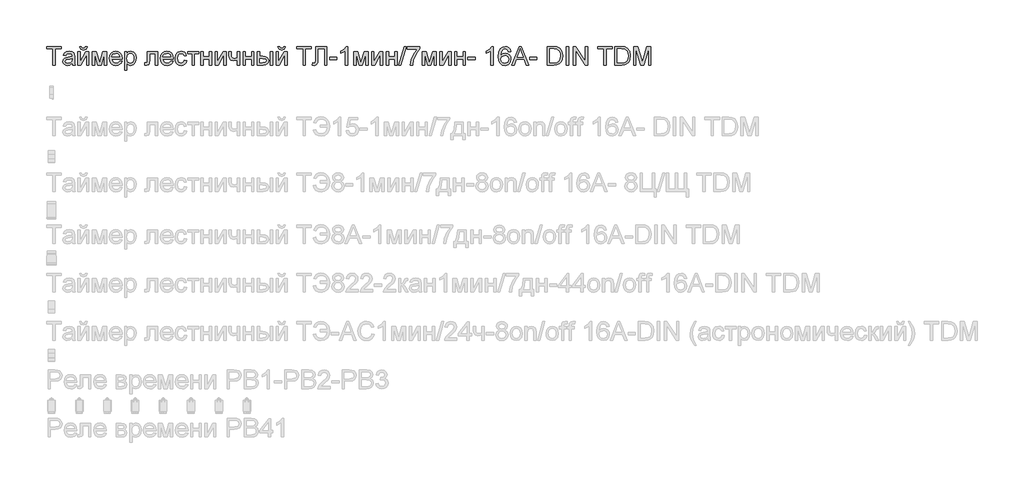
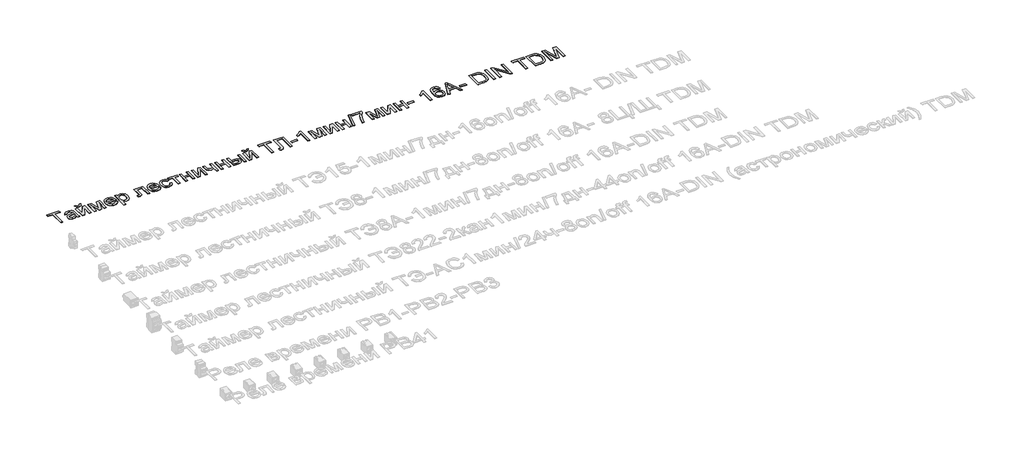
# One storey, part 33 of 34: 1 proxy.
"""IFC4 building model written with IfcOpenShell, lengths in millimetres."""

from ifc_helpers import new_model, si_unit, frame, origin, place, context, project, spatial, polyline, outline, extrude, element, save

model = new_model("IFC4")

# Units and contexts
model_context = context("Model", 3, world=origin())
ifc_project = project(units=[si_unit("LENGTHUNIT", "METRE", prefix="MILLI")], contexts=[model_context])

# Site, building, storey
site = spatial("IfcSite", under=ifc_project)
building = spatial("IfcBuilding", under=site)
storey = spatial("IfcBuildingStorey", under=building, Name="Этаж 01", Elevation=0.0)

# Proxy
placement = place(None, origin())
element("IfcBuildingElementProxy", 1, Name="Надпись на модели 1", ObjectType="Надпись на модели 1", at=placement, inside=storey, context=model_context, shape_type="SweptSolid", body=[
    extrude(outline(polyline([(-19013.8985135, 18536.235284), (-19013.8985135, 18624.1345554), (-19046.8607403, 18624.1345554), (-19046.8607403, 18636.6915941), (-18968.379248, 18636.6915941), (-18968.379248, 18624.1345554), (-19001.3414748, 18624.1345554), (-19001.3414748, 18536.235284), (-19013.8985135, 18536.235284)])), frame((0.0, 0.0, 40.0), z_axis=(0.0, 0.0, 1.0), x_axis=(1.0, 0.0, 0.0)), (0.0, 0.0, 1.0), 2.0),
    extrude(outline(polyline([(-18908.7333139, 18545.6530631), (-18920.9102079, 18537.1427262), (-18934.3624262, 18534.6656541), (-18944.8562601, 18536.1555762), (-18952.5971104, 18540.6253425), (-18957.3703793, 18547.4127653), (-18958.9614689, 18555.8556571), (-18956.5579732, 18565.7884709), (-18950.2426656, 18572.998958), (-18941.450286, 18577.1192364), (-18930.5855044, 18579.0076973), (-18908.8068903, 18583.3241794), (-18908.7333139, 18586.1200825), (-18912.1914046, 18595.3907088), (-18926.0728186, 18599.0204778), (-18938.7770101, 18596.6047194), (-18944.8348003, 18588.0330689), (-18957.3918391, 18589.6026988), (-18951.9594483, 18601.8654319), (-18941.0210903, 18609.0513936), (-18924.4541378, 18611.5775166), (-18909.2360859, 18609.3456992), (-18900.63991, 18603.7416301), (-18896.7894117, 18595.2190306), (-18896.1762751, 18584.2316216), (-18896.1762751, 18568.6088996), (-18895.538613, 18546.7934973), (-18893.0370154, 18536.235284), (-18905.5940542, 18536.235284), (-18908.7333139, 18545.6530631)]), holes=[polyline([(-18908.7333139, 18570.7671406), (-18928.9913491, 18566.9166424), (-18939.794817, 18564.8810287), (-18944.6876475, 18561.5700907), (-18946.4044302, 18556.7385739), (-18942.6642965, 18549.9450197), (-18931.6891504, 18547.2226929), (-18918.9849588, 18550.2270625), (-18910.793453, 18557.4988633), (-18908.8068903, 18567.210948), (-18908.7333139, 18570.7671406)])]), frame((0.0, 0.0, 40.0), z_axis=(0.0, 0.0, 1.0), x_axis=(1.0, 0.0, 0.0)), (0.0, 0.0, 1.0), 2.0),
    extrude(outline(polyline([(-18878.9103468, 18610.0078868), (-18866.353308, 18610.0078868), (-18866.353308, 18553.746467), (-18835.5002713, 18610.0078868), (-18819.2644126, 18610.0078868), (-18819.2644126, 18536.235284), (-18831.8214514, 18536.235284), (-18831.8214514, 18592.1533473), (-18862.4782843, 18536.235284), (-18878.9103468, 18536.235284), (-18878.9103468, 18610.0078868)])), frame((0.0, 0.0, 40.0), z_axis=(0.0, 0.0, 1.0), x_axis=(1.0, 0.0, 0.0)), (0.0, 0.0, 1.0), 2.0),
    extrude(outline(polyline([(-18838.0999708, 18636.6915941), (-18828.6821917, 18636.6915941), (-18834.7767701, 18622.7243411), (-18848.3025648, 18617.856036), (-18862.9442682, 18622.6875529), (-18869.4925677, 18636.6915941), (-18860.0747886, 18636.6915941), (-18856.5431215, 18629.6159971), (-18849.4307362, 18627.2738151), (-18841.6316379, 18629.5424207), (-18838.0999708, 18636.6915941)])), frame((0.0, 0.0, 40.0), z_axis=(0.0, 0.0, 1.0), x_axis=(1.0, 0.0, 0.0)), (0.0, 0.0, 1.0), 2.0),
    extrude(outline(polyline([(-18800.4288545, 18610.0078868), (-18778.8219186, 18610.0078868), (-18762.169127, 18550.9505638), (-18744.2164856, 18610.0078868), (-18723.516992, 18610.0078868), (-18723.516992, 18536.235284), (-18736.0740308, 18536.235284), (-18736.0740308, 18595.6359635), (-18754.124774, 18536.235284), (-18770.6058874, 18536.235284), (-18787.8718157, 18598.4809176), (-18787.8718157, 18536.235284), (-18800.4288545, 18536.235284), (-18800.4288545, 18610.0078868)])), frame((0.0, 0.0, 40.0), z_axis=(0.0, 0.0, 1.0), x_axis=(1.0, 0.0, 0.0)), (0.0, 0.0, 1.0), 2.0),
    extrude(outline(polyline([(-18653.0308017, 18558.2101018), (-18640.7190176, 18556.640472), (-18645.1550614, 18547.3637143), (-18652.2337241, 18540.4291387), (-18661.7955903, 18536.1065253), (-18673.6812444, 18534.6656541), (-18688.4149183, 18537.1519233), (-18699.7518151, 18544.6107308), (-18706.9806963, 18556.5576985), (-18709.3903234, 18572.5084487), (-18706.9561709, 18588.9956935), (-18699.6537133, 18601.3258717), (-18688.4701006, 18609.0146054), (-18674.3924829, 18611.5775166), (-18660.753258, 18609.0207367), (-18649.8547538, 18601.3503971), (-18642.7086461, 18589.0447444), (-18640.3266102, 18572.5820251), (-18640.4001866, 18569.1975108), (-18696.8332846, 18569.1975108), (-18694.6597152, 18559.7981258), (-18689.6105348, 18552.8880756), (-18682.3234056, 18548.6390386), (-18673.4359897, 18547.2226929), (-18661.1242056, 18549.8469178), (-18653.0308017, 18558.2101018)]), holes=[polyline([(-18696.8332846, 18581.7545495), (-18652.8836489, 18581.7545495), (-18657.9113695, 18593.1343659), (-18665.2322212, 18597.5489499), (-18674.4415339, 18599.0204778), (-18689.9048404, 18594.323851), (-18694.7700798, 18588.8332123), (-18696.8332846, 18581.7545495)])]), frame((0.0, 0.0, 40.0), z_axis=(0.0, 0.0, 1.0), x_axis=(1.0, 0.0, 0.0)), (0.0, 0.0, 1.0), 2.0),
    extrude(outline(polyline([(-18627.7695714, 18507.9819468), (-18627.7695714, 18610.0078868), (-18615.2125326, 18610.0078868), (-18615.2125326, 18597.6961027), (-18606.5305175, 18608.1071631), (-18594.8073446, 18611.5775166), (-18578.890317, 18606.7214743), (-18568.4915192, 18593.036264), (-18564.9843776, 18573.6856711), (-18568.9452404, 18553.3417968), (-18580.4476841, 18539.4849083), (-18596.3279235, 18534.6656541), (-18607.2540188, 18537.890753), (-18615.2125326, 18546.0454705), (-18615.2125326, 18507.9819468), (-18627.7695714, 18507.9819468)]), holes=[polyline([(-18615.2125326, 18572.5329742), (-18613.8544349, 18561.2757851), (-18609.7801418, 18553.4031104), (-18603.7683369, 18548.7677973), (-18596.5977037, 18547.2226929), (-18589.3105745, 18548.8229796), (-18583.1454854, 18553.6238396), (-18578.9424336, 18561.7846886), (-18577.5414163, 18573.4649419), (-18578.9087111, 18584.6608173), (-18583.0105953, 18592.6438566), (-18589.0132032, 18597.4263225), (-18596.0826689, 18599.0204778), (-18603.1797257, 18597.325155), (-18609.4122598, 18592.2391864), (-18613.7624644, 18583.9219876), (-18615.2125326, 18572.5329742)])]), frame((0.0, 0.0, 40.0), z_axis=(0.0, 0.0, 1.0), x_axis=(1.0, 0.0, 0.0)), (0.0, 0.0, 1.0), 2.0),
    extrude(outline(polyline([(-18505.3384434, 18610.0078868), (-18448.8317689, 18610.0078868), (-18448.8317689, 18536.3088604), (-18461.3888077, 18536.3088604), (-18461.3888077, 18597.450848), (-18492.7814046, 18597.450848), (-18492.7814046, 18562.2568038), (-18493.6275332, 18546.0209451), (-18498.2751091, 18539.1660772), (-18509.262518, 18536.235284), (-18519.465112, 18536.8729461), (-18519.465112, 18548.7923228), (-18513.8487802, 18548.7923228), (-18508.1711348, 18549.564875), (-18505.9025291, 18552.0174216), (-18505.3384434, 18562.9680423), (-18505.3384434, 18610.0078868)])), frame((0.0, 0.0, 40.0), z_axis=(0.0, 0.0, 1.0), x_axis=(1.0, 0.0, 0.0)), (0.0, 0.0, 1.0), 2.0),
    extrude(outline(polyline([(-18378.3455787, 18558.2101018), (-18366.0337946, 18556.640472), (-18370.4698383, 18547.3637143), (-18377.548501, 18540.4291387), (-18387.1103672, 18536.1065253), (-18398.9960213, 18534.6656541), (-18413.7296952, 18537.1519233), (-18425.0665921, 18544.6107308), (-18432.2954733, 18556.5576985), (-18434.7051003, 18572.5084487), (-18432.2709478, 18588.9956935), (-18424.9684902, 18601.3258717), (-18413.7848775, 18609.0146054), (-18399.7072599, 18611.5775166), (-18386.0680349, 18609.0207367), (-18375.1695308, 18601.3503971), (-18368.023423, 18589.0447444), (-18365.6413871, 18572.5820251), (-18365.7149635, 18569.1975108), (-18422.1480616, 18569.1975108), (-18419.9744921, 18559.7981258), (-18414.9253117, 18552.8880756), (-18407.6381825, 18548.6390386), (-18398.7507667, 18547.2226929), (-18386.4389826, 18549.8469178), (-18378.3455787, 18558.2101018)]), holes=[polyline([(-18422.1480616, 18581.7545495), (-18378.1984259, 18581.7545495), (-18383.2261465, 18593.1343659), (-18390.5469982, 18597.5489499), (-18399.7563108, 18599.0204778), (-18415.2196173, 18594.323851), (-18420.0848567, 18588.8332123), (-18422.1480616, 18581.7545495)])]), frame((0.0, 0.0, 40.0), z_axis=(0.0, 0.0, 1.0), x_axis=(1.0, 0.0, 0.0)), (0.0, 0.0, 1.0), 2.0),
    extrude(outline(polyline([(-18305.995453, 18562.9189914), (-18293.4384142, 18561.3493615), (-18296.9394245, 18550.1810773), (-18303.5183809, 18541.7412512), (-18312.5560152, 18536.4345534), (-18323.4330595, 18534.6656541), (-18336.7902416, 18537.1335292), (-18347.2350246, 18544.5371544), (-18353.9764622, 18556.5515672), (-18356.223608, 18572.8518052), (-18352.3853725, 18593.7107144), (-18340.6867251, 18607.1138817), (-18323.6047378, 18611.5775166), (-18312.9944079, 18610.044675), (-18304.5116622, 18605.44615), (-18298.4262809, 18598.0271964), (-18295.008044, 18588.0330689), (-18307.5650828, 18586.4634391), (-18313.3898811, 18595.8689554), (-18323.5066359, 18599.0204778), (-18331.6214996, 18597.4692421), (-18338.0625002, 18592.8155349), (-18342.265552, 18584.8079701), (-18343.6665693, 18573.1951618), (-18342.2962088, 18561.4260036), (-18338.1851275, 18553.3908477), (-18331.8606229, 18548.7647316), (-18323.8499925, 18547.2226929), (-18312.0164549, 18551.0731911), (-18305.995453, 18562.9189914)])), frame((0.0, 0.0, 40.0), z_axis=(0.0, 0.0, 1.0), x_axis=(1.0, 0.0, 0.0)), (0.0, 0.0, 1.0), 2.0),
    extrude(outline(polyline([(-18288.7295246, 18610.0078868), (-18229.0835905, 18610.0078868), (-18229.0835905, 18597.450848), (-18252.6280382, 18597.450848), (-18252.6280382, 18536.235284), (-18265.185077, 18536.235284), (-18265.185077, 18597.450848), (-18288.7295246, 18597.450848), (-18288.7295246, 18610.0078868)])), frame((0.0, 0.0, 40.0), z_axis=(0.0, 0.0, 1.0), x_axis=(1.0, 0.0, 0.0)), (0.0, 0.0, 1.0), 2.0),
    extrude(outline(polyline([(-18218.0961816, 18610.0078868), (-18205.5391428, 18610.0078868), (-18205.5391428, 18581.7545495), (-18172.576916, 18581.7545495), (-18172.576916, 18610.0078868), (-18160.0198773, 18610.0078868), (-18160.0198773, 18536.235284), (-18172.576916, 18536.235284), (-18172.576916, 18569.1975108), (-18205.5391428, 18569.1975108), (-18205.5391428, 18536.235284), (-18218.0961816, 18536.235284), (-18218.0961816, 18610.0078868)])), frame((0.0, 0.0, 40.0), z_axis=(0.0, 0.0, 1.0), x_axis=(1.0, 0.0, 0.0)), (0.0, 0.0, 1.0), 2.0),
    extrude(outline(polyline([(-18141.1843191, 18610.0078868), (-18128.6272803, 18610.0078868), (-18128.6272803, 18553.746467), (-18097.7742437, 18610.0078868), (-18081.538385, 18610.0078868), (-18081.538385, 18536.235284), (-18094.0954237, 18536.235284), (-18094.0954237, 18592.1533473), (-18124.7522567, 18536.235284), (-18141.1843191, 18536.235284), (-18141.1843191, 18610.0078868)])), frame((0.0, 0.0, 40.0), z_axis=(0.0, 0.0, 1.0), x_axis=(1.0, 0.0, 0.0)), (0.0, 0.0, 1.0), 2.0),
    extrude(outline(polyline([(-18067.4117163, 18610.0078868), (-18054.8546776, 18610.0078868), (-18054.8546776, 18595.8566927), (-18053.8368707, 18582.5884154), (-18048.9440402, 18575.4024537), (-18039.2319555, 18572.3367705), (-18021.8924508, 18576.1382177), (-18021.8924508, 18610.0078868), (-18009.335412, 18610.0078868), (-18009.335412, 18536.235284), (-18021.8924508, 18536.235284), (-18021.8924508, 18564.0962138), (-18042.5919444, 18559.7797317), (-18056.8289776, 18564.2801548), (-18065.2044244, 18575.3043519), (-18067.4117163, 18589.6517497), (-18067.4117163, 18610.0078868)])), frame((0.0, 0.0, 40.0), z_axis=(0.0, 0.0, 1.0), x_axis=(1.0, 0.0, 0.0)), (0.0, 0.0, 1.0), 2.0),
    extrude(outline(polyline([(-17990.4998539, 18610.0078868), (-17977.9428151, 18610.0078868), (-17977.9428151, 18581.7545495), (-17944.9805884, 18581.7545495), (-17944.9805884, 18610.0078868), (-17932.4235496, 18610.0078868), (-17932.4235496, 18536.235284), (-17944.9805884, 18536.235284), (-17944.9805884, 18569.1975108), (-17977.9428151, 18569.1975108), (-17977.9428151, 18536.235284), (-17990.4998539, 18536.235284), (-17990.4998539, 18610.0078868)])), frame((0.0, 0.0, 40.0), z_axis=(0.0, 0.0, 1.0), x_axis=(1.0, 0.0, 0.0)), (0.0, 0.0, 1.0), 2.0),
    extrude(outline(polyline([(-17844.5242782, 18610.0078868), (-17831.9672394, 18610.0078868), (-17831.9672394, 18536.235284), (-17844.5242782, 18536.235284), (-17844.5242782, 18610.0078868)])), frame((0.0, 0.0, 40.0), z_axis=(0.0, 0.0, 1.0), x_axis=(1.0, 0.0, 0.0)), (0.0, 0.0, 1.0), 2.0),
    extrude(outline(polyline([(-17913.5879914, 18610.0078868), (-17901.0309527, 18610.0078868), (-17901.0309527, 18583.3241794), (-17885.5063325, 18583.3241794), (-17872.0878367, 18581.7514838), (-17862.1458258, 18577.0333973), (-17855.9929994, 18569.5500643), (-17853.9420573, 18559.6816298), (-17855.6619056, 18550.6961121), (-17860.8214506, 18543.1146773), (-17869.7579174, 18537.9551323), (-17882.8085312, 18536.235284), (-17913.5879914, 18536.235284), (-17913.5879914, 18610.0078868)]), holes=[polyline([(-17901.0309527, 18548.7923228), (-17888.1305574, 18548.7923228), (-17871.4777657, 18551.4288104), (-17866.499096, 18559.6571044), (-17870.1901787, 18567.3826263), (-17886.4873511, 18570.7671406), (-17901.0309527, 18570.7671406), (-17901.0309527, 18548.7923228)])]), frame((0.0, 0.0, 40.0), z_axis=(0.0, 0.0, 1.0), x_axis=(1.0, 0.0, 0.0)), (0.0, 0.0, 1.0), 2.0),
    extrude(outline(polyline([(-17813.1316813, 18610.0078868), (-17800.5746425, 18610.0078868), (-17800.5746425, 18553.746467), (-17769.7216059, 18610.0078868), (-17753.4857471, 18610.0078868), (-17753.4857471, 18536.235284), (-17766.0427859, 18536.235284), (-17766.0427859, 18592.1533473), (-17796.6996188, 18536.235284), (-17813.1316813, 18536.235284), (-17813.1316813, 18610.0078868)])), frame((0.0, 0.0, 40.0), z_axis=(0.0, 0.0, 1.0), x_axis=(1.0, 0.0, 0.0)), (0.0, 0.0, 1.0), 2.0),
    extrude(outline(polyline([(-17772.3213053, 18636.6915941), (-17762.9035262, 18636.6915941), (-17768.9981046, 18622.7243411), (-17782.5238993, 18617.856036), (-17797.1656027, 18622.6875529), (-17803.7139022, 18636.6915941), (-17794.2961231, 18636.6915941), (-17790.764456, 18629.6159971), (-17783.6520707, 18627.2738151), (-17775.8529724, 18629.5424207), (-17772.3213053, 18636.6915941)])), frame((0.0, 0.0, 40.0), z_axis=(0.0, 0.0, 1.0), x_axis=(1.0, 0.0, 0.0)), (0.0, 0.0, 1.0), 2.0),
    extrude(outline(polyline([(-17668.7257354, 18536.235284), (-17668.7257354, 18624.1345554), (-17701.6879622, 18624.1345554), (-17701.6879622, 18636.6915941), (-17623.2064699, 18636.6915941), (-17623.2064699, 18624.1345554), (-17656.1686967, 18624.1345554), (-17656.1686967, 18536.235284), (-17668.7257354, 18536.235284)])), frame((0.0, 0.0, 40.0), z_axis=(0.0, 0.0, 1.0), x_axis=(1.0, 0.0, 0.0)), (0.0, 0.0, 1.0), 2.0),
    extrude(outline(polyline([(-17601.2316521, 18636.6915941), (-17540.0160881, 18636.6915941), (-17540.0160881, 18536.235284), (-17552.5731268, 18536.235284), (-17552.5731268, 18624.1345554), (-17588.6746133, 18624.1345554), (-17588.6746133, 18572.8763307), (-17590.1338785, 18550.0063333), (-17596.2529824, 18538.7000934), (-17608.0742572, 18534.6656541), (-17618.4975804, 18536.235284), (-17616.9279505, 18548.7923228), (-17610.9192113, 18547.2226929), (-17603.6474105, 18550.5949445), (-17601.2316521, 18566.475184), (-17601.2316521, 18636.6915941)])), frame((0.0, 0.0, 40.0), z_axis=(0.0, 0.0, 1.0), x_axis=(1.0, 0.0, 0.0)), (0.0, 0.0, 1.0), 2.0),
    extrude(outline(polyline([(-17525.8894194, 18566.0582511), (-17525.8894194, 18578.6152898), (-17486.6486733, 18578.6152898), (-17486.6486733, 18566.0582511), (-17525.8894194, 18566.0582511)])), frame((0.0, 0.0, 40.0), z_axis=(0.0, 0.0, 1.0), x_axis=(1.0, 0.0, 0.0)), (0.0, 0.0, 1.0), 2.0),
    extrude(outline(polyline([(-17428.572369, 18536.235284), (-17441.1294078, 18536.235284), (-17441.1294078, 18614.5205726), (-17453.0242589, 18606.0470239), (-17466.2434853, 18599.7071909), (-17466.2434853, 18611.5775166), (-17447.8371228, 18623.325215), (-17436.6657729, 18636.6915941), (-17428.572369, 18636.6915941), (-17428.572369, 18536.235284)])), frame((0.0, 0.0, 40.0), z_axis=(0.0, 0.0, 1.0), x_axis=(1.0, 0.0, 0.0)), (0.0, 0.0, 1.0), 2.0),
    extrude(outline(polyline([(-17395.6101422, 18610.0078868), (-17374.0032064, 18610.0078868), (-17357.3504147, 18550.9505638), (-17339.3977734, 18610.0078868), (-17318.6982798, 18610.0078868), (-17318.6982798, 18536.235284), (-17331.2553185, 18536.235284), (-17331.2553185, 18595.6359635), (-17349.3060618, 18536.235284), (-17365.7871751, 18536.235284), (-17383.0531035, 18598.4809176), (-17383.0531035, 18536.235284), (-17395.6101422, 18536.235284), (-17395.6101422, 18610.0078868)])), frame((0.0, 0.0, 40.0), z_axis=(0.0, 0.0, 1.0), x_axis=(1.0, 0.0, 0.0)), (0.0, 0.0, 1.0), 2.0),
    extrude(outline(polyline([(-17299.8627216, 18610.0078868), (-17287.3056828, 18610.0078868), (-17287.3056828, 18553.746467), (-17256.4526462, 18610.0078868), (-17240.2167875, 18610.0078868), (-17240.2167875, 18536.235284), (-17252.7738262, 18536.235284), (-17252.7738262, 18592.1533473), (-17283.4306592, 18536.235284), (-17299.8627216, 18536.235284), (-17299.8627216, 18610.0078868)])), frame((0.0, 0.0, 40.0), z_axis=(0.0, 0.0, 1.0), x_axis=(1.0, 0.0, 0.0)), (0.0, 0.0, 1.0), 2.0),
    extrude(outline(polyline([(-17221.3812293, 18610.0078868), (-17208.8241905, 18610.0078868), (-17208.8241905, 18581.7545495), (-17175.8619638, 18581.7545495), (-17175.8619638, 18610.0078868), (-17163.304925, 18610.0078868), (-17163.304925, 18536.235284), (-17175.8619638, 18536.235284), (-17175.8619638, 18569.1975108), (-17208.8241905, 18569.1975108), (-17208.8241905, 18536.235284), (-17221.3812293, 18536.235284), (-17221.3812293, 18610.0078868)])), frame((0.0, 0.0, 40.0), z_axis=(0.0, 0.0, 1.0), x_axis=(1.0, 0.0, 0.0)), (0.0, 0.0, 1.0), 2.0),
    extrude(outline(polyline([(-17153.8871459, 18536.235284), (-17125.6338087, 18636.6915941), (-17114.3030432, 18636.6915941), (-17142.5563805, 18536.235284), (-17153.8871459, 18536.235284)])), frame((0.0, 0.0, 40.0), z_axis=(0.0, 0.0, 1.0), x_axis=(1.0, 0.0, 0.0)), (0.0, 0.0, 1.0), 2.0),
    extrude(outline(polyline([(-17108.3678804, 18622.5649255), (-17108.3678804, 18635.1219643), (-17042.4434269, 18635.1219643), (-17042.4434269, 18624.9684212), (-17061.1440949, 18597.9536201), (-17075.4547046, 18563.532128), (-17080.1145432, 18536.235284), (-17092.6715819, 18536.235284), (-17087.6806495, 18564.5621976), (-17073.9831766, 18596.5801939), (-17055.0004656, 18622.5649255), (-17108.3678804, 18622.5649255)])), frame((0.0, 0.0, 40.0), z_axis=(0.0, 0.0, 1.0), x_axis=(1.0, 0.0, 0.0)), (0.0, 0.0, 1.0), 2.0),
    extrude(outline(polyline([(-17028.3167582, 18610.0078868), (-17006.7098224, 18610.0078868), (-16990.0570307, 18550.9505638), (-16972.1043894, 18610.0078868), (-16951.4048958, 18610.0078868), (-16951.4048958, 18536.235284), (-16963.9619345, 18536.235284), (-16963.9619345, 18595.6359635), (-16982.0126778, 18536.235284), (-16998.4937912, 18536.235284), (-17015.7597195, 18598.4809176), (-17015.7597195, 18536.235284), (-17028.3167582, 18536.235284), (-17028.3167582, 18610.0078868)])), frame((0.0, 0.0, 40.0), z_axis=(0.0, 0.0, 1.0), x_axis=(1.0, 0.0, 0.0)), (0.0, 0.0, 1.0), 2.0),
    extrude(outline(polyline([(-16932.5693376, 18610.0078868), (-16920.0122989, 18610.0078868), (-16920.0122989, 18553.746467), (-16889.1592622, 18610.0078868), (-16872.9234035, 18610.0078868), (-16872.9234035, 18536.235284), (-16885.4804422, 18536.235284), (-16885.4804422, 18592.1533473), (-16916.1372752, 18536.235284), (-16932.5693376, 18536.235284), (-16932.5693376, 18610.0078868)])), frame((0.0, 0.0, 40.0), z_axis=(0.0, 0.0, 1.0), x_axis=(1.0, 0.0, 0.0)), (0.0, 0.0, 1.0), 2.0),
    extrude(outline(polyline([(-16854.0878453, 18610.0078868), (-16841.5308066, 18610.0078868), (-16841.5308066, 18581.7545495), (-16808.5685798, 18581.7545495), (-16808.5685798, 18610.0078868), (-16796.011541, 18610.0078868), (-16796.011541, 18536.235284), (-16808.5685798, 18536.235284), (-16808.5685798, 18569.1975108), (-16841.5308066, 18569.1975108), (-16841.5308066, 18536.235284), (-16854.0878453, 18536.235284), (-16854.0878453, 18610.0078868)])), frame((0.0, 0.0, 40.0), z_axis=(0.0, 0.0, 1.0), x_axis=(1.0, 0.0, 0.0)), (0.0, 0.0, 1.0), 2.0),
    extrude(outline(polyline([(-16783.4545022, 18566.0582511), (-16783.4545022, 18578.6152898), (-16744.2137561, 18578.6152898), (-16744.2137561, 18566.0582511), (-16783.4545022, 18566.0582511)])), frame((0.0, 0.0, 40.0), z_axis=(0.0, 0.0, 1.0), x_axis=(1.0, 0.0, 0.0)), (0.0, 0.0, 1.0), 2.0),
    extrude(outline(polyline([(-16646.8967056, 18536.235284), (-16659.4537444, 18536.235284), (-16659.4537444, 18614.5205726), (-16671.3485956, 18606.0470239), (-16684.5678219, 18599.7071909), (-16684.5678219, 18611.5775166), (-16666.1614595, 18623.325215), (-16654.9901095, 18636.6915941), (-16646.8967056, 18636.6915941), (-16646.8967056, 18536.235284)])), frame((0.0, 0.0, 40.0), z_axis=(0.0, 0.0, 1.0), x_axis=(1.0, 0.0, 0.0)), (0.0, 0.0, 1.0), 2.0),
    extrude(outline(polyline([(-16552.7189149, 18610.0078868), (-16565.2759536, 18608.4382569), (-16570.0338941, 18618.910631), (-16582.6154583, 18624.1345554), (-16593.9462238, 18621.0933975), (-16602.5178743, 18609.676793), (-16606.0863296, 18587.2973049), (-16595.0130816, 18597.3159579), (-16581.2910832, 18600.5901077), (-16569.6905376, 18598.3521589), (-16559.9539274, 18591.6383125), (-16553.3504456, 18581.3805362), (-16551.149285, 18568.5107977), (-16555.2940888, 18551.1835557), (-16566.6984307, 18538.9208226), (-16583.1550186, 18534.6656541), (-16597.4012489, 18537.4860828), (-16608.7473427, 18545.9473687), (-16616.169362, 18560.8833777), (-16618.6433684, 18583.1279756), (-16615.8965162, 18608.13782), (-16607.6559595, 18625.2382014), (-16596.4049018, 18633.8282459), (-16581.8306434, 18636.6915941), (-16570.8125777, 18634.9196292), (-16561.9895412, 18629.6037344), (-16555.8091236, 18621.1608426), (-16552.7189149, 18610.0078868)]), holes=[polyline([(-16606.0863296, 18568.7070014), (-16603.1800619, 18557.8299571), (-16595.45454, 18549.9327569), (-16584.1360373, 18547.2226929), (-16575.8494953, 18548.6267759), (-16569.3349183, 18552.8390247), (-16565.1134724, 18559.4609006), (-16563.7063238, 18568.0938648), (-16565.0950783, 18576.3804067), (-16569.2613419, 18582.69878), (-16575.8862835, 18586.6994967), (-16584.6510721, 18588.0330689), (-16599.8445985, 18582.69878), (-16604.5258968, 18576.5336909), (-16606.0863296, 18568.7070014)])]), frame((0.0, 0.0, 40.0), z_axis=(0.0, 0.0, 1.0), x_axis=(1.0, 0.0, 0.0)), (0.0, 0.0, 1.0), 2.0),
    extrude(outline(polyline([(-16547.151634, 18536.235284), (-16507.0524965, 18636.6915941), (-16496.3593932, 18636.6915941), (-16456.2602557, 18536.235284), (-16469.528533, 18536.235284), (-16481.0309767, 18567.6278809), (-16522.4054385, 18567.6278809), (-16533.8833567, 18536.235284), (-16547.151634, 18536.235284)]), holes=[polyline([(-16517.7946508, 18580.1849197), (-16485.617239, 18580.1849197), (-16494.667136, 18604.8820643), (-16501.7059449, 18624.1345554), (-16507.9599388, 18607.0403053), (-16517.7946508, 18580.1849197)])]), frame((0.0, 0.0, 40.0), z_axis=(0.0, 0.0, 1.0), x_axis=(1.0, 0.0, 0.0)), (0.0, 0.0, 1.0), 2.0),
    extrude(outline(polyline([(-16450.6929749, 18566.0582511), (-16450.6929749, 18578.6152898), (-16411.4522287, 18578.6152898), (-16411.4522287, 18566.0582511), (-16450.6929749, 18566.0582511)])), frame((0.0, 0.0, 40.0), z_axis=(0.0, 0.0, 1.0), x_axis=(1.0, 0.0, 0.0)), (0.0, 0.0, 1.0), 2.0),
    extrude(outline(polyline([(-16356.5151841, 18536.235284), (-16356.5151841, 18636.6915941), (-16321.8607002, 18636.6915941), (-16303.9325843, 18635.2445916), (-16289.1682535, 18628.05863), (-16277.2734024, 18610.8908035), (-16273.3248023, 18587.0029993), (-16275.9980781, 18566.7327014), (-16282.8652087, 18552.1032607), (-16292.0377331, 18542.99205), (-16304.0429489, 18537.9520666), (-16320.1929685, 18536.235284), (-16356.5151841, 18536.235284)]), holes=[polyline([(-16343.9581453, 18548.7923228), (-16321.7380728, 18548.7923228), (-16305.5757905, 18550.6072073), (-16296.2561133, 18555.7330297), (-16288.6164305, 18568.2042294), (-16285.881841, 18587.1992031), (-16287.2215446, 18600.8844133), (-16291.2406554, 18610.9889054), (-16304.2759408, 18622.1234671), (-16322.0814294, 18624.1345554), (-16343.9581453, 18624.1345554), (-16343.9581453, 18548.7923228)])]), frame((0.0, 0.0, 40.0), z_axis=(0.0, 0.0, 1.0), x_axis=(1.0, 0.0, 0.0)), (0.0, 0.0, 1.0), 2.0),
    extrude(outline(polyline([(-16254.4892441, 18536.235284), (-16254.4892441, 18636.6915941), (-16241.9322053, 18636.6915941), (-16241.9322053, 18536.235284), (-16254.4892441, 18536.235284)])), frame((0.0, 0.0, 40.0), z_axis=(0.0, 0.0, 1.0), x_axis=(1.0, 0.0, 0.0)), (0.0, 0.0, 1.0), 2.0),
    extrude(outline(polyline([(-16216.8181278, 18536.235284), (-16216.8181278, 18636.6915941), (-16203.3781723, 18636.6915941), (-16150.8936743, 18557.1064559), (-16150.8936743, 18636.6915941), (-16138.3366355, 18636.6915941), (-16138.3366355, 18536.235284), (-16151.7765911, 18536.235284), (-16204.261089, 18615.8449477), (-16204.261089, 18536.235284), (-16216.8181278, 18536.235284)])), frame((0.0, 0.0, 40.0), z_axis=(0.0, 0.0, 1.0), x_axis=(1.0, 0.0, 0.0)), (0.0, 0.0, 1.0), 2.0),
    extrude(outline(polyline([(-16052.006994, 18536.235284), (-16052.006994, 18624.1345554), (-16084.9692207, 18624.1345554), (-16084.9692207, 18636.6915941), (-16006.4877284, 18636.6915941), (-16006.4877284, 18624.1345554), (-16039.4499552, 18624.1345554), (-16039.4499552, 18536.235284), (-16052.006994, 18536.235284)])), frame((0.0, 0.0, 40.0), z_axis=(0.0, 0.0, 1.0), x_axis=(1.0, 0.0, 0.0)), (0.0, 0.0, 1.0), 2.0),
    extrude(outline(polyline([(-15992.3610598, 18536.235284), (-15992.3610598, 18636.6915941), (-15957.7065759, 18636.6915941), (-15939.77846, 18635.2445916), (-15925.0141292, 18628.05863), (-15913.1192781, 18610.8908035), (-15909.170678, 18587.0029993), (-15911.8439538, 18566.7327014), (-15918.7110844, 18552.1032607), (-15927.8836088, 18542.99205), (-15939.8888246, 18537.9520666), (-15956.0388442, 18536.235284), (-15992.3610598, 18536.235284)]), holes=[polyline([(-15979.8040211, 18548.7923228), (-15957.5839485, 18548.7923228), (-15941.4216662, 18550.6072073), (-15932.101989, 18555.7330297), (-15924.4623062, 18568.2042294), (-15921.7277167, 18587.1992031), (-15923.0674203, 18600.8844133), (-15927.0865311, 18610.9889054), (-15940.1218165, 18622.1234671), (-15957.9273051, 18624.1345554), (-15979.8040211, 18624.1345554), (-15979.8040211, 18548.7923228)])]), frame((0.0, 0.0, 40.0), z_axis=(0.0, 0.0, 1.0), x_axis=(1.0, 0.0, 0.0)), (0.0, 0.0, 1.0), 2.0),
    extrude(outline(polyline([(-15891.9047497, 18536.235284), (-15891.9047497, 18636.6915941), (-15870.2978138, 18636.6915941), (-15849.745473, 18565.8865728), (-15845.6006692, 18551.0977166), (-15841.1125089, 18567.1128461), (-15820.9035246, 18636.6915941), (-15799.2965888, 18636.6915941), (-15799.2965888, 18536.235284), (-15811.8536275, 18536.235284), (-15811.8536275, 18624.1345554), (-15837.0903324, 18536.235284), (-15854.111006, 18536.235284), (-15879.3477109, 18624.1345554), (-15879.3477109, 18536.235284), (-15891.9047497, 18536.235284)])), frame((0.0, 0.0, 40.0), z_axis=(0.0, 0.0, 1.0), x_axis=(1.0, 0.0, 0.0)), (0.0, 0.0, 1.0), 2.0),
])

save(model, "model.ifc")
